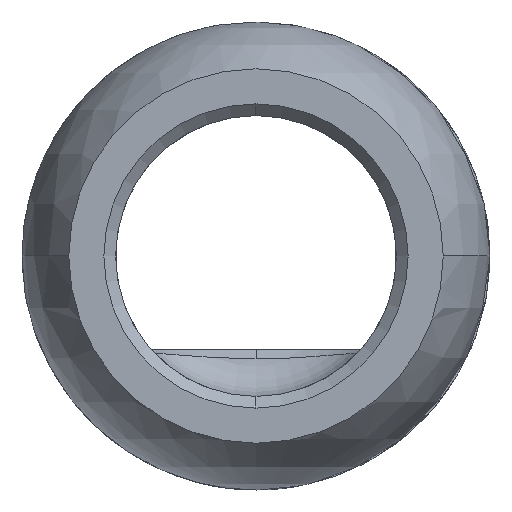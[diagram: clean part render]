
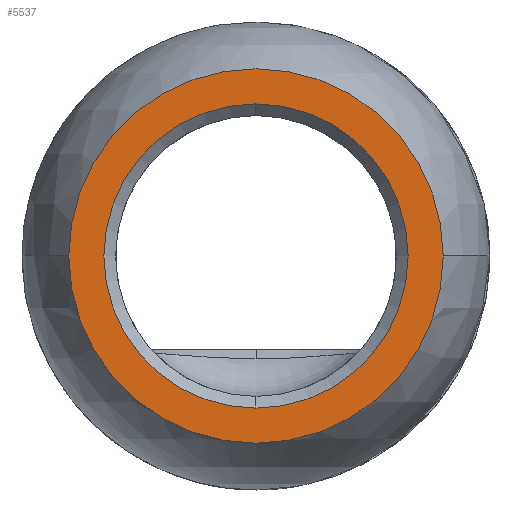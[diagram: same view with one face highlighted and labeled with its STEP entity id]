
A CAD part, left-side view. The second image highlights one B-rep face of the part: STEP entity #5537.
In plain terms, the highlighted planar face has unit normal (-1, 0, 0).
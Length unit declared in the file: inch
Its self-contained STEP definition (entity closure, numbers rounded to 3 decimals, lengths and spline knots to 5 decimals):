
#37 = PLANE ( 'NONE',  #10792 ) ;
#267 = VERTEX_POINT ( 'NONE', #10002 ) ;
#521 = CARTESIAN_POINT ( 'NONE',  ( 0., 0., -0.40625 ) ) ;
#679 = FACE_BOUND ( 'NONE', #11497, .T. ) ;
#1193 = VERTEX_POINT ( 'NONE', #6858 ) ;
#1821 = CIRCLE ( 'NONE', #5746, 0.40625 ) ;
#2388 = EDGE_LOOP ( 'NONE', ( #10064, #10347 ) ) ;
#2530 = CIRCLE ( 'NONE', #13818, 0.5 ) ;
#2712 = CARTESIAN_POINT ( 'NONE',  ( 0., 0., 0.40625 ) ) ;
#2847 = CIRCLE ( 'NONE', #5685, 0.5 ) ;
#3388 = CARTESIAN_POINT ( 'NONE',  ( 0., 0., 0. ) ) ;
#3441 = DIRECTION ( 'NONE',  ( 0., 0., 1. ) ) ;
#3540 = DIRECTION ( 'NONE',  ( -1., 0., 0. ) ) ;
#3981 = VERTEX_POINT ( 'NONE', #2712 ) ;
#4966 = CARTESIAN_POINT ( 'NONE',  ( 0., 0., 0. ) ) ;
#5209 = DIRECTION ( 'NONE',  ( 0., 0., -1. ) ) ;
#5380 = DIRECTION ( 'NONE',  ( 1., 0., 0. ) ) ;
#5537 = ADVANCED_FACE ( 'NONE', ( #679, #11230 ), #37, .F. ) ;
#5633 = DIRECTION ( 'NONE',  ( 1., 0., 0. ) ) ;
#5685 = AXIS2_PLACEMENT_3D ( 'NONE', #13322, #3540, #3441 ) ;
#5746 = AXIS2_PLACEMENT_3D ( 'NONE', #7637, #5380, #8745 ) ;
#6152 = CARTESIAN_POINT ( 'NONE',  ( 0., 0., 0. ) ) ;
#6686 = DIRECTION ( 'NONE',  ( 0., 0., -1. ) ) ;
#6858 = CARTESIAN_POINT ( 'NONE',  ( 0., -0.5, 0. ) ) ;
#7340 = VERTEX_POINT ( 'NONE', #521 ) ;
#7637 = CARTESIAN_POINT ( 'NONE',  ( 0., 0., 0. ) ) ;
#8540 = CIRCLE ( 'NONE', #11786, 0.40625 ) ;
#8745 = DIRECTION ( 'NONE',  ( 0., 0., -1. ) ) ;
#9318 = EDGE_CURVE ( 'NONE', #7340, #3981, #1821, .T. ) ;
#9802 = ORIENTED_EDGE ( 'NONE', *, *, #10229, .T. ) ;
#10002 = CARTESIAN_POINT ( 'NONE',  ( 0., 0.5, 0. ) ) ;
#10064 = ORIENTED_EDGE ( 'NONE', *, *, #13053, .T. ) ;
#10229 = EDGE_CURVE ( 'NONE', #3981, #7340, #8540, .T. ) ;
#10347 = ORIENTED_EDGE ( 'NONE', *, *, #11655, .T. ) ;
#10514 = DIRECTION ( 'NONE',  ( -1., 0., 0. ) ) ;
#10746 = ORIENTED_EDGE ( 'NONE', *, *, #9318, .T. ) ;
#10792 = AXIS2_PLACEMENT_3D ( 'NONE', #3388, #5633, #6686 ) ;
#11230 = FACE_OUTER_BOUND ( 'NONE', #2388, .T. ) ;
#11497 = EDGE_LOOP ( 'NONE', ( #9802, #10746 ) ) ;
#11655 = EDGE_CURVE ( 'NONE', #1193, #267, #2530, .T. ) ;
#11746 = DIRECTION ( 'NONE',  ( 1., 0., 0. ) ) ;
#11786 = AXIS2_PLACEMENT_3D ( 'NONE', #4966, #11746, #5209 ) ;
#13053 = EDGE_CURVE ( 'NONE', #267, #1193, #2847, .T. ) ;
#13322 = CARTESIAN_POINT ( 'NONE',  ( 0., 0., 0. ) ) ;
#13818 = AXIS2_PLACEMENT_3D ( 'NONE', #6152, #10514, #13886 ) ;
#13886 = DIRECTION ( 'NONE',  ( 0., 0., 1. ) ) ;
